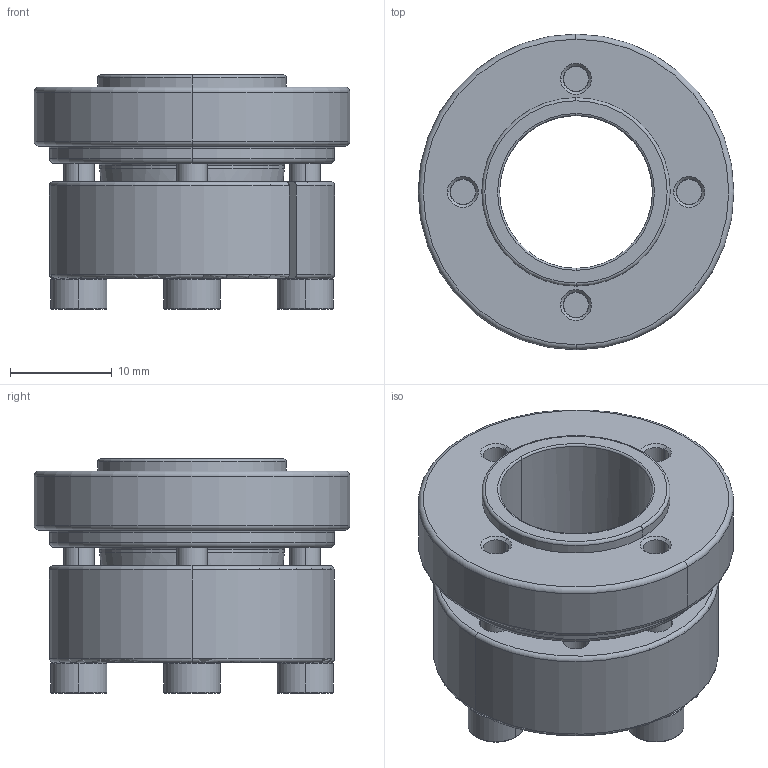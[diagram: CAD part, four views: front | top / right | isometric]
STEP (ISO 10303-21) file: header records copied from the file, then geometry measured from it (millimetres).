
FILE_DESCRIPTION (( 'STEP AP203' ), '1' );
FILE_NAME ('SAPC-15-28.STEP', '2013-07-24T09:51:45', ( 'MYCOM' ), ( '' ), 'SwSTEP 2.0', 'SolidWorks 2012', '' );
FILE_SCHEMA (( 'CONFIG_CONTROL_DESIGN' ));
Length unit declared in the file: millimetre
Products named in the file (1): SAPC-15-28
Bounding box: 31 x 31 x 23.01 mm (x, y, z)
Volume: 8473.3 mm3; surface area: 5881.4 mm2
Topology: 1 solids, 1 shells, 239 faces, 581 edges, 342 vertices
Faces by surface type: plane 88, torus 61, cylinder 57, cone 33
Entity records: 7191 total; most frequent: CARTESIAN_POINT 1377, DIRECTION 1320, ORIENTED_EDGE 1146, EDGE_CURVE 573, AXIS2_PLACEMENT_3D 553, VERTEX_POINT 342, CIRCLE 313, EDGE_LOOP 267
